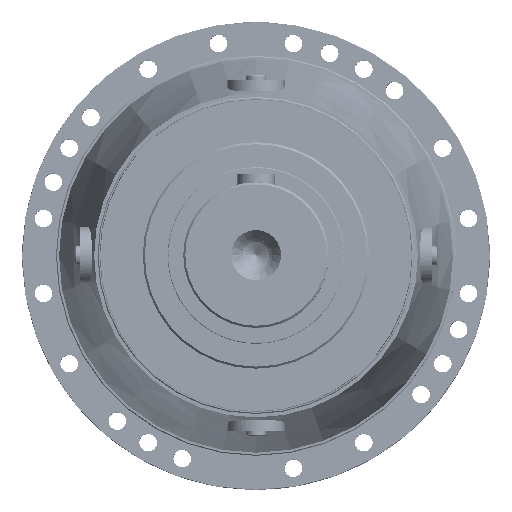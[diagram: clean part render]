
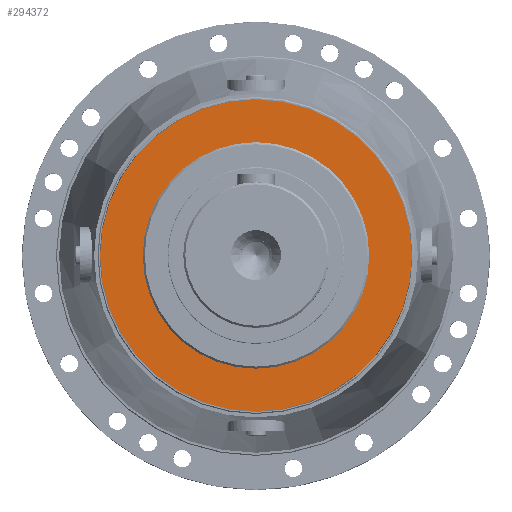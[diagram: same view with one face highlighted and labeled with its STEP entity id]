
A CAD part, top view. The second image highlights one B-rep face of the part: STEP entity #294372.
In plain terms, the highlighted planar face has unit normal (0, 0, 1).
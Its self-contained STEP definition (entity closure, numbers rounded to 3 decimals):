
#16281 = EDGE_CURVE ( 'NONE', #215235, #215350, #184339, .T. ) ;
#16291 = EDGE_CURVE ( 'NONE', #215350, #215235, #184271, .T. ) ;
#16322 = EDGE_CURVE ( 'NONE', #215600, #215400, #184474, .T. ) ;
#16329 = EDGE_CURVE ( 'NONE', #215400, #215600, #184548, .T. ) ;
#27944 = AXIS2_PLACEMENT_3D ( 'NONE', #37674, #37711, #37611 ) ;
#37611 = DIRECTION ( 'NONE',  ( 0., 1., 0. ) ) ;
#37674 = CARTESIAN_POINT ( 'NONE',  ( 0., 150., 220. ) ) ;
#37683 = PLANE ( 'NONE',  #27944 ) ;
#37711 = DIRECTION ( 'NONE',  ( 0., 0., -1. ) ) ;
#38193 = ORIENTED_EDGE ( 'NONE', *, *, #16291, .F. ) ;
#38235 = ORIENTED_EDGE ( 'NONE', *, *, #16322, .F. ) ;
#38255 = ORIENTED_EDGE ( 'NONE', *, *, #16329, .F. ) ;
#38377 = ORIENTED_EDGE ( 'NONE', *, *, #16281, .F. ) ;
#41456 = FACE_OUTER_BOUND ( 'NONE', #119821, .T. ) ;
#41521 = FACE_BOUND ( 'NONE', #119799, .T. ) ;
#92179 = CARTESIAN_POINT ( 'NONE',  ( 0., 0., 220. ) ) ;
#92182 = DIRECTION ( 'NONE',  ( 0., 1., 0. ) ) ;
#92188 = DIRECTION ( 'NONE',  ( 0., 0., -1. ) ) ;
#92236 = CARTESIAN_POINT ( 'NONE',  ( 0., 0., 220. ) ) ;
#92239 = DIRECTION ( 'NONE',  ( 0., 1., 0. ) ) ;
#92259 = DIRECTION ( 'NONE',  ( 0., 0., -1. ) ) ;
#92385 = CARTESIAN_POINT ( 'NONE',  ( 0., 0., 220. ) ) ;
#92397 = DIRECTION ( 'NONE',  ( 0., 0., 1. ) ) ;
#92398 = DIRECTION ( 'NONE',  ( 0., 1., 0. ) ) ;
#92414 = DIRECTION ( 'NONE',  ( 0., 1., 0. ) ) ;
#92415 = DIRECTION ( 'NONE',  ( 0., 0., 1. ) ) ;
#92423 = CARTESIAN_POINT ( 'NONE',  ( 0., 0., 220. ) ) ;
#119799 = EDGE_LOOP ( 'NONE', ( #38235, #38255 ) ) ;
#119821 = EDGE_LOOP ( 'NONE', ( #38377, #38193 ) ) ;
#175220 = AXIS2_PLACEMENT_3D ( 'NONE', #92385, #92397, #92398 ) ;
#175233 = AXIS2_PLACEMENT_3D ( 'NONE', #92236, #92259, #92239 ) ;
#175282 = AXIS2_PLACEMENT_3D ( 'NONE', #92423, #92415, #92414 ) ;
#175348 = AXIS2_PLACEMENT_3D ( 'NONE', #92179, #92188, #92182 ) ;
#184271 = CIRCLE ( 'NONE', #175233, 150. ) ;
#184339 = CIRCLE ( 'NONE', #175348, 150. ) ;
#184474 = CIRCLE ( 'NONE', #175220, 109. ) ;
#184548 = CIRCLE ( 'NONE', #175282, 109. ) ;
#201708 = CARTESIAN_POINT ( 'NONE',  ( 0., 150., 220. ) ) ;
#201737 = CARTESIAN_POINT ( 'NONE',  ( 0., -150., 220. ) ) ;
#201839 = CARTESIAN_POINT ( 'NONE',  ( 0., -109., 220. ) ) ;
#201875 = CARTESIAN_POINT ( 'NONE',  ( 0., 109., 220. ) ) ;
#215235 = VERTEX_POINT ( 'NONE', #201708 ) ;
#215350 = VERTEX_POINT ( 'NONE', #201737 ) ;
#215400 = VERTEX_POINT ( 'NONE', #201839 ) ;
#215600 = VERTEX_POINT ( 'NONE', #201875 ) ;
#294372 = ADVANCED_FACE ( 'NONE', ( #41521, #41456 ), #37683, .F. ) ;
